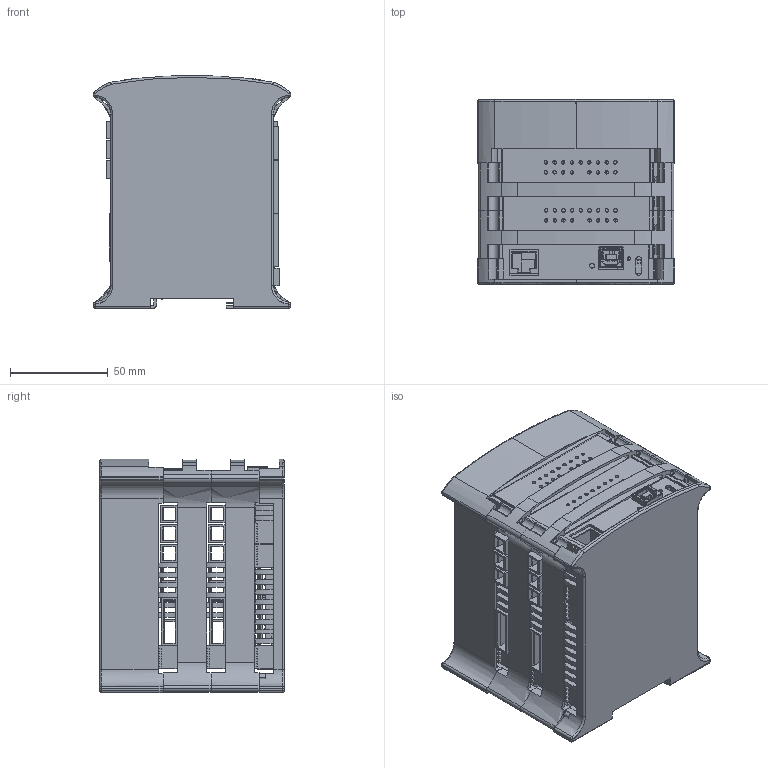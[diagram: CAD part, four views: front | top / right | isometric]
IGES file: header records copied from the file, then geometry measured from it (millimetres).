
Start section: SolidWorks IGES file using analytic representation for surfaces
Global section: file name: D:\Dropbox (Boot&Work_Corp_SL)\Equipo Tecnico\PROYECTOS\INDUSTRIAL SHIELDS\I+D\3D\3D conjuntos\equipos\M_duino rele\38R+\Mduino_38R+.IGS; native system: SolidWorks 2016; preprocessor: SolidWorks 2016; author: albertis; date: 191106.145941; units: millimetre
Bounding box: 101 x 94.7 x 119.5 mm (x, y, z)
Surface area: 164089.9 mm2 (no closed solid volume)
Topology: 0 solids, 0 shells, 1270 faces, 21127 edges, 21073 vertices
Faces by surface type: bspline 883, revolution 387
